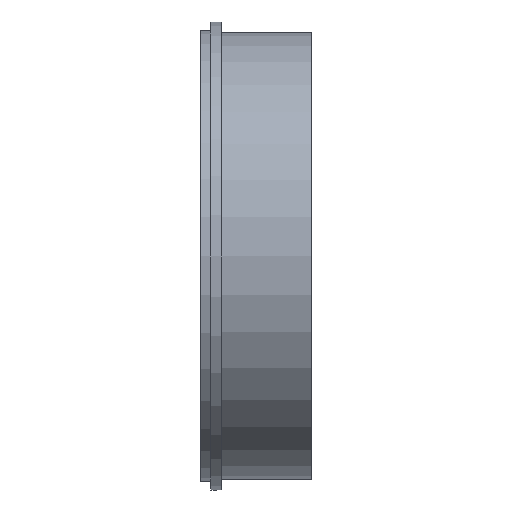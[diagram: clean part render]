
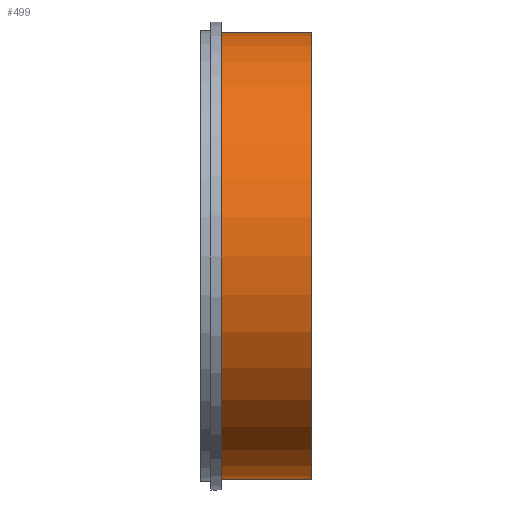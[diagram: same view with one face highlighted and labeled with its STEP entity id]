
A CAD part, front view. The second image highlights one B-rep face of the part: STEP entity #499.
In plain terms, the highlighted cylindrical face has radius 64.5 mm (diameter 129 mm), a full revolution.
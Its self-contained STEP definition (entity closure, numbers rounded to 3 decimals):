
#468=CARTESIAN_POINT('',(-28.664,64.5,0.0));
#469=VERTEX_POINT('',#468);
#470=CARTESIAN_POINT('',(-28.664,0.0,0.0));
#471=DIRECTION('',(1.0,0.0,0.0));
#472=DIRECTION('',(0.0,1.0,0.0));
#473=AXIS2_PLACEMENT_3D('',#470,#471,#472);
#474=CIRCLE('',#473,64.5);
#475=EDGE_CURVE('',#469,#469,#474,.T.);
#480=CARTESIAN_POINT('',(-15.664,0.0,0.0));
#481=DIRECTION('',(1.0,0.0,0.0));
#482=DIRECTION('',(0.0,1.0,0.0));
#483=AXIS2_PLACEMENT_3D('',#480,#481,#482);
#484=CYLINDRICAL_SURFACE('',#483,64.5);
#485=CARTESIAN_POINT('',(-2.664,64.5,0.0));
#486=VERTEX_POINT('',#485);
#487=CARTESIAN_POINT('',(-2.664,0.0,0.0));
#488=DIRECTION('',(1.0,0.0,0.0));
#489=DIRECTION('',(0.0,1.0,0.0));
#490=AXIS2_PLACEMENT_3D('',#487,#488,#489);
#491=CIRCLE('',#490,64.5);
#492=EDGE_CURVE('',#486,#486,#491,.T.);
#493=ORIENTED_EDGE('',*,*,#492,.F.);
#494=EDGE_LOOP('',(#493));
#495=FACE_OUTER_BOUND('',#494,.T.);
#496=ORIENTED_EDGE('',*,*,#475,.T.);
#497=EDGE_LOOP('',(#496));
#498=FACE_BOUND('',#497,.T.);
#499=ADVANCED_FACE('',(#495,#498),#484,.T.);
